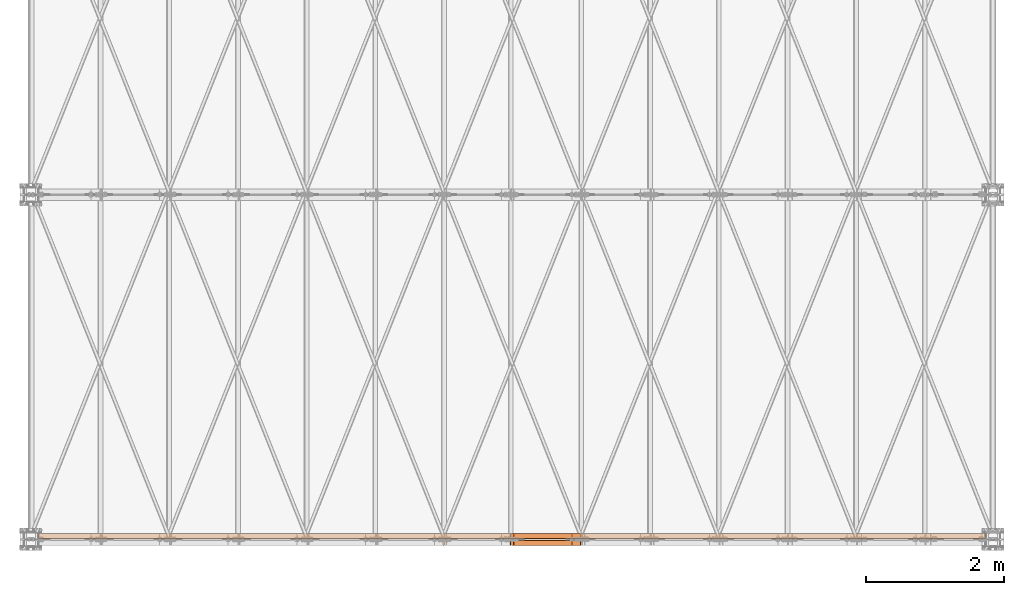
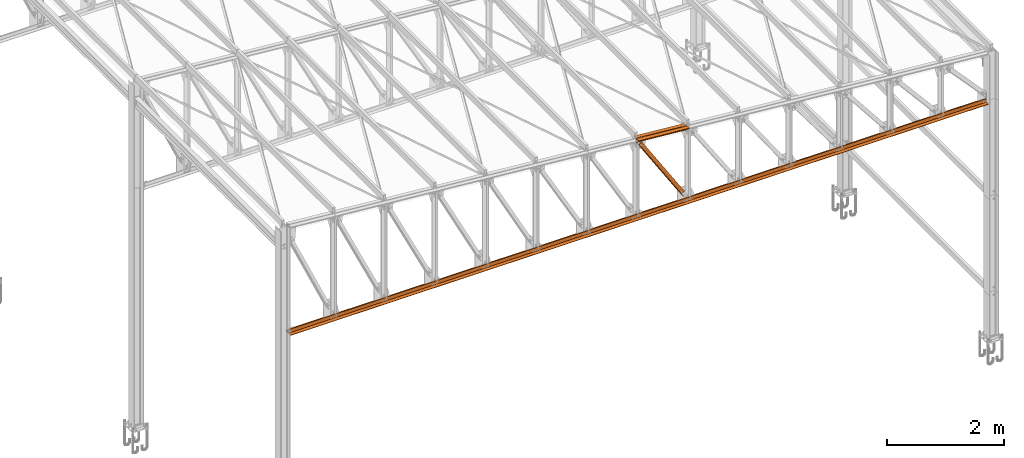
# One storey, part 231 of 251: 6 proxies.
"""IFC4 building model written with IfcOpenShell, lengths in metres."""

from ifc_helpers import new_model, si_unit, frame, origin_with_axes, origin_2d_with_axis, place, context, project, spatial, polyline, i_section, outline, extrude, material, material_profile, profile_set, profile_usage, type_object, element, save


model = new_model("IFC4")

# Units and contexts
model_context = context("Model", 3, precision=1e-05, world=origin_with_axes())
ifc_project = project(units=[si_unit("LENGTHUNIT", "METRE"), si_unit("AREAUNIT", "SQUARE_METRE"), si_unit("VOLUMEUNIT", "CUBIC_METRE"), si_unit("MASSUNIT", "GRAM", prefix="KILO"), si_unit("TIMEUNIT", "SECOND"), si_unit("PLANEANGLEUNIT", "RADIAN"), si_unit("SOLIDANGLEUNIT", "STERADIAN"), si_unit("THERMODYNAMICTEMPERATUREUNIT", "DEGREE_CELSIUS")], contexts=[model_context])

# Site, building, storey
placement_1 = place(None, origin_with_axes())
site = spatial("IfcSite", under=ifc_project, at=placement_1, Name="Italia", CompositionType="ELEMENT")
building = spatial("IfcBuilding", under=site, at=placement_1, Name="Deposito", CompositionType="ELEMENT")
storey = spatial("IfcBuildingStorey", under=building, at=placement_1, Name="Storey 0", CompositionType="ELEMENT", Elevation=0.0)

# Proxies
ifc_material = material(Name="Acciaio", Category="Acciaio")
ifc_material_profile = material_profile(ifc_material, i_section(OverallWidth=0.2, OverallDepth=0.19, WebThickness=0.006, FlangeThickness=0.01, FilletRadius=0.018, at=origin_2d_with_axis()), Name="7 PILASTRO HEA200")
ifc_profile_set = profile_set([ifc_material_profile])
ifc_profile_usage_1 = profile_usage(ifc_profile_set, cardinal=1)
member_type_1 = type_object("IfcMemberType", Name="5 2L80x8", PredefinedType="MEMBER", material=ifc_profile_usage_1)
placement_2 = place(placement_1, origin_with_axes())
proxy_1_placement = place(placement_2, origin_with_axes())
element("IfcBuildingElementProxy", 1, at=proxy_1_placement, inside=storey, type_object=member_type_1, Name="80001", context=model_context, shape_type="SweptSolid", body=[
    extrude(outline(polyline([(0.0, 0.0), (-0.08, 0.0), (-0.08, 0.0079999), (-0.008, 0.0079999), (-0.008, 0.0799999), (0.0, 0.0799999), (0.0, 0.0)])), frame((6.15505, -0.005, 4.97748), z_axis=(1.0, 0.0, 0.0), x_axis=(0.0, 1.0, 0.0)), (0.0, 0.0, 1.0), 13.7399),
])
ifc_profile_usage_2 = profile_usage(ifc_profile_set, cardinal=1)
member_type_2 = type_object("IfcMemberType", Name="5 2L80x8", PredefinedType="MEMBER", material=ifc_profile_usage_2)
proxy_2_placement = place(placement_2, origin_with_axes())
element("IfcBuildingElementProxy", 2, at=proxy_2_placement, inside=storey, type_object=member_type_2, Name="80001", context=model_context, shape_type="SweptSolid", body=[
    extrude(outline(polyline([(0.0, 0.0), (0.008, 0.0), (0.008, -0.072), (0.08, -0.072), (0.08, -0.0799999), (0.0, -0.0799999), (0.0, 0.0)])), frame((6.15505, 0.005, 5.05748), z_axis=(1.0, 0.0, 0.0), x_axis=(0.0, 1.0, 0.0)), (0.0, 0.0, 1.0), 13.7399),
])
ifc_profile_usage_3 = profile_usage(ifc_profile_set, cardinal=2)
member_type_3 = type_object("IfcMemberType", Name="5 2L80x8", PredefinedType="MEMBER", material=ifc_profile_usage_3)
proxy_3_placement = place(placement_2, origin_with_axes())
element("IfcBuildingElementProxy", 3, at=proxy_3_placement, inside=storey, type_object=member_type_3, Name="230071", context=model_context, shape_type="SweptSolid", body=[
    extrude(outline(polyline([(0.0, 0.0), (0.08, 0.0), (0.08, -0.00800037), (0.008, -0.00800037), (0.00800001, -0.0799999), (0.0, -0.0799999), (0.0, 0.0)])), frame((13.0069, 0.005, 6.6321), z_axis=(0.996389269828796, 0.0, -0.084902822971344), x_axis=(0.0, 1.0, 0.0)), (0.0, 0.0, 1.0), 1.01649),
])
ifc_profile_usage_4 = profile_usage(ifc_profile_set, cardinal=2)
member_type_4 = type_object("IfcMemberType", Name="5 2L80x8", PredefinedType="MEMBER", material=ifc_profile_usage_4)
proxy_4_placement = place(placement_2, origin_with_axes())
element("IfcBuildingElementProxy", 4, at=proxy_4_placement, inside=storey, type_object=member_type_4, Name="230071", context=model_context, shape_type="SweptSolid", body=[
    extrude(outline(polyline([(0.0, 0.0), (-0.008, 0.0), (-0.00800001, 0.0719995), (-0.08, 0.0719995), (-0.08, 0.0799999), (0.0, 0.0799999), (0.0, 0.0)])), frame((13.0001, -0.00499999, 6.55239), z_axis=(0.996389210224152, 0.0, -0.084902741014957), x_axis=(0.0, 1.0, 0.0)), (0.0, 0.0, 1.0), 1.01649),
])
ifc_profile_usage_5 = profile_usage(ifc_profile_set, cardinal=1)
member_type_5 = type_object("IfcMemberType", Name="5 2L80x8", PredefinedType="MEMBER", material=ifc_profile_usage_5)
proxy_5_placement = place(placement_2, origin_with_axes())
element("IfcBuildingElementProxy", 5, at=proxy_5_placement, inside=storey, type_object=member_type_5, Name="160001", context=model_context, shape_type="SweptSolid", body=[
    extrude(outline(polyline([(0.0, 0.0), (-0.08, 0.0), (-0.08, 0.00799942), (-0.008, 0.00799942), (-0.008, 0.0799999), (0.0, 0.0799999), (0.0, 0.0)])), frame((13.05, -0.005, 6.4894), z_axis=(0.536214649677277, 0.0, -0.844081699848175), x_axis=(0.0, 1.0, 0.0)), (0.0, 0.0, 1.0), 1.5624),
])
ifc_profile_usage_6 = profile_usage(ifc_profile_set, cardinal=1)
member_type_6 = type_object("IfcMemberType", Name="5 2L80x8", PredefinedType="MEMBER", material=ifc_profile_usage_6)
proxy_6_placement = place(placement_2, origin_with_axes())
element("IfcBuildingElementProxy", 6, at=proxy_6_placement, inside=storey, type_object=member_type_6, Name="160001", context=model_context, shape_type="SweptSolid", body=[
    extrude(outline(polyline([(0.0, 0.0), (0.008, 0.0), (0.008, -0.0720005), (0.08, -0.0720005), (0.08, -0.0799999), (0.0, -0.0799999), (0.0, 0.0)])), frame((13.1175, 0.005, 6.5323), z_axis=(0.536214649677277, 0.0, -0.844081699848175), x_axis=(0.0, 1.0, 0.0)), (0.0, 0.0, 1.0), 1.5624),
])

save(model, "model.ifc")
